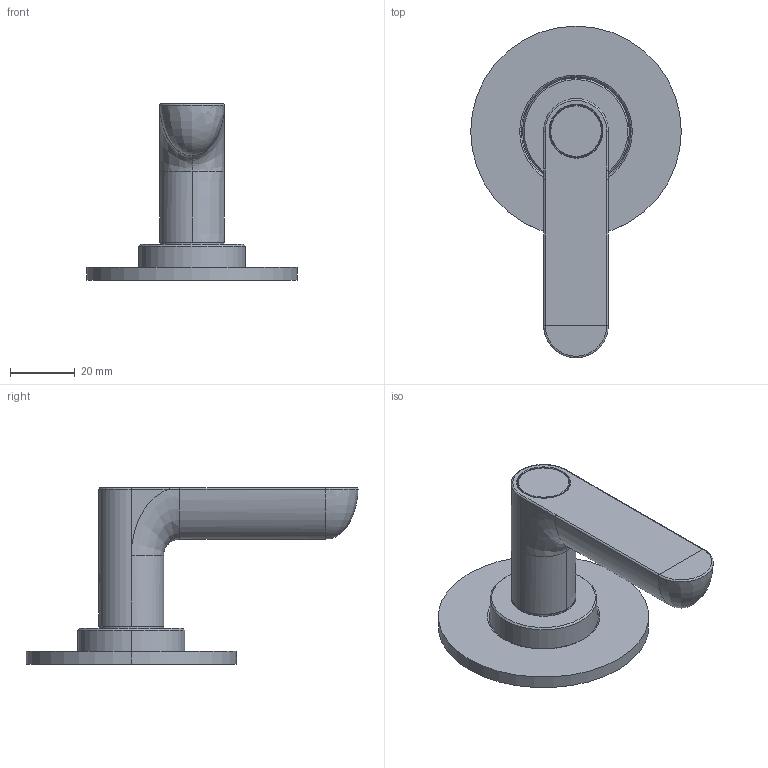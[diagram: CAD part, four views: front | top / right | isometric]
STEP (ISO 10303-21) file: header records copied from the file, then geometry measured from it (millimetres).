
FILE_DESCRIPTION(('STEP AP214'),'2;1');
FILE_NAME('DIS_3D_R891B_D391A.stp','2021-11-25T14:22:05',(''),(''),'2015.2.119','THINKDESIGN','');
FILE_SCHEMA(('AUTOMOTIVE_DESIGN'));
Length unit declared in the file: millimetre
Products named in the file (1): top
Bounding box: 65 x 102.49 x 54.6 mm (x, y, z)
Volume: 39913.3 mm3; surface area: 20086.6 mm2
Topology: 8 solids, 8 shells, 272 faces, 686 edges, 440 vertices
Faces by surface type: cylinder 108, plane 97, bspline 67
Entity records: 17600 total; most frequent: CARTESIAN_POINT 6334, ORIENTED_EDGE 1366, DIRECTION 1270, EDGE_CURVE 683, STYLED_ITEM 552, PRESENTATION_STYLE_ASSIGNMENT 549, SURFACE_STYLE_USAGE 549, SURFACE_SIDE_STYLE 549
